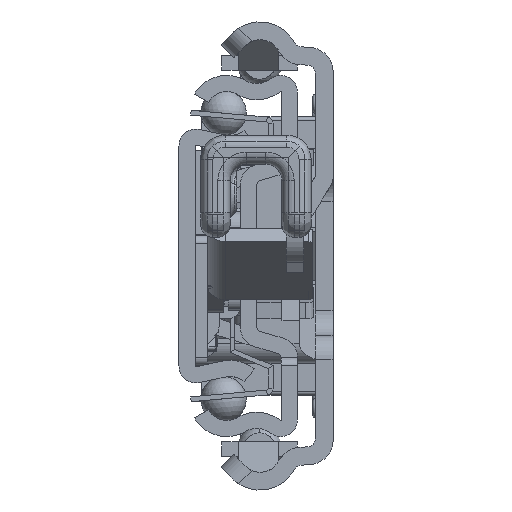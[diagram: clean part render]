
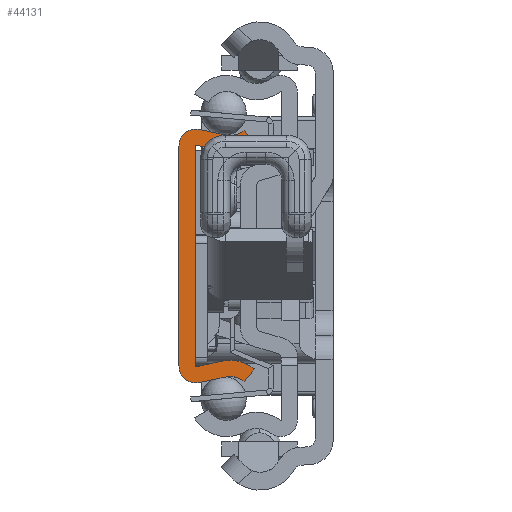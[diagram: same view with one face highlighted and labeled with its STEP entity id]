
A CAD part, left-side view. The second image highlights one B-rep face of the part: STEP entity #44131.
In plain terms, the highlighted planar face has unit normal (-1, 0, 0).
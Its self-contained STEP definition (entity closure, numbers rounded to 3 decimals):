
#39547=CARTESIAN_POINT('',(0.,-6.29,-17.65));
#39548=DIRECTION('',(-1.,0.,0.));
#39549=DIRECTION('',(0.,-0.629,0.778));
#39550=AXIS2_PLACEMENT_3D('',#39547,#39548,#39549);
#39552=DIRECTION('',(0.,0.977,-0.213));
#39553=VECTOR('',#39552,3.218);
#39554=CARTESIAN_POINT('',(0.,-5.692,-14.915));
#39555=LINE('',#39554,#39553);
#39556=CARTESIAN_POINT('',(0.,-2.1,-13.55));
#39557=DIRECTION('',(1.,0.,0.));
#39558=DIRECTION('',(0.,-0.213,-0.977));
#39559=AXIS2_PLACEMENT_3D('',#39556,#39557,#39558);
#39561=DIRECTION('',(0.,0.,1.));
#39562=VECTOR('',#39561,27.1);
#39563=CARTESIAN_POINT('',(0.,0.,-13.55));
#39564=LINE('',#39563,#39562);
#39565=CARTESIAN_POINT('',(0.,-2.1,13.55));
#39566=DIRECTION('',(1.,0.,0.));
#39567=DIRECTION('',(0.,1.,0.));
#39568=AXIS2_PLACEMENT_3D('',#39565,#39566,#39567);
#39570=DIRECTION('',(0.,-0.977,-0.213));
#39571=VECTOR('',#39570,3.218);
#39572=CARTESIAN_POINT('',(0.,-2.548,15.602));
#39573=LINE('',#39572,#39571);
#39574=CARTESIAN_POINT('',(0.,-6.29,17.65));
#39575=DIRECTION('',(-1.,0.,0.));
#39576=DIRECTION('',(0.,0.213,-0.977));
#39577=AXIS2_PLACEMENT_3D('',#39574,#39575,#39576);
#39579=DIRECTION('',(0.,-0.629,-0.778));
#39580=VECTOR('',#39579,2.);
#39581=CARTESIAN_POINT('',(0.,-8.05,15.472));
#39582=LINE('',#39581,#39580);
#39583=CARTESIAN_POINT('',(0.,-6.29,17.65));
#39584=DIRECTION('',(1.,0.,0.));
#39585=DIRECTION('',(0.,-0.629,-0.778));
#39586=AXIS2_PLACEMENT_3D('',#39583,#39584,#39585);
#39588=DIRECTION('',(0.,0.977,0.213));
#39589=VECTOR('',#39588,3.218);
#39590=CARTESIAN_POINT('',(0.,-5.265,12.961));
#39591=LINE('',#39590,#39589);
#39592=CARTESIAN_POINT('',(0.,-2.1,13.55));
#39593=DIRECTION('',(-1.,0.,0.));
#39594=DIRECTION('',(0.,-0.213,0.977));
#39595=AXIS2_PLACEMENT_3D('',#39592,#39593,#39594);
#39597=DIRECTION('',(0.,0.,-1.));
#39598=VECTOR('',#39597,27.1);
#39599=CARTESIAN_POINT('',(0.,-2.,13.55));
#39600=LINE('',#39599,#39598);
#39601=CARTESIAN_POINT('',(0.,-2.1,-13.55));
#39602=DIRECTION('',(-1.,0.,0.));
#39603=DIRECTION('',(0.,1.,0.));
#39604=AXIS2_PLACEMENT_3D('',#39601,#39602,#39603);
#39606=DIRECTION('',(0.,-0.977,0.213));
#39607=VECTOR('',#39606,3.218);
#39608=CARTESIAN_POINT('',(0.,-2.121,-13.648));
#39609=LINE('',#39608,#39607);
#39610=CARTESIAN_POINT('',(0.,-6.29,-17.65));
#39611=DIRECTION('',(1.,0.,0.));
#39612=DIRECTION('',(0.,0.213,0.977));
#39613=AXIS2_PLACEMENT_3D('',#39610,#39611,#39612);
#39615=DIRECTION('',(0.,0.629,-0.778));
#39616=VECTOR('',#39615,2.);
#39617=CARTESIAN_POINT('',(0.,-9.307,-13.917));
#39618=LINE('',#39617,#39616);
#43262=CARTESIAN_POINT('',(0.,-8.05,-15.472));
#43263=CARTESIAN_POINT('',(0.,-5.692,-14.915));
#43264=VERTEX_POINT('',#43262);
#43265=VERTEX_POINT('',#43263);
#43266=CARTESIAN_POINT('',(0.,-2.548,-15.602));
#43267=VERTEX_POINT('',#43266);
#43268=CARTESIAN_POINT('',(0.,0.,-13.55));
#43269=VERTEX_POINT('',#43268);
#43270=CARTESIAN_POINT('',(0.,0.,13.55));
#43271=VERTEX_POINT('',#43270);
#43272=CARTESIAN_POINT('',(0.,-2.548,15.602));
#43273=VERTEX_POINT('',#43272);
#43274=CARTESIAN_POINT('',(0.,-5.692,14.915));
#43275=VERTEX_POINT('',#43274);
#43276=CARTESIAN_POINT('',(0.,-8.05,15.472));
#43277=VERTEX_POINT('',#43276);
#43278=CARTESIAN_POINT('',(0.,-9.307,13.917));
#43279=VERTEX_POINT('',#43278);
#43280=CARTESIAN_POINT('',(0.,-5.265,12.961));
#43281=VERTEX_POINT('',#43280);
#43282=CARTESIAN_POINT('',(0.,-2.121,13.648));
#43283=VERTEX_POINT('',#43282);
#43284=CARTESIAN_POINT('',(0.,-2.,13.55));
#43285=VERTEX_POINT('',#43284);
#43286=CARTESIAN_POINT('',(0.,-2.,-13.55));
#43287=VERTEX_POINT('',#43286);
#43288=CARTESIAN_POINT('',(0.,-2.121,-13.648));
#43289=VERTEX_POINT('',#43288);
#43290=CARTESIAN_POINT('',(0.,-5.265,-12.961));
#43291=VERTEX_POINT('',#43290);
#43292=CARTESIAN_POINT('',(0.,-9.307,-13.917));
#43293=VERTEX_POINT('',#43292);
#44092=CARTESIAN_POINT('',(0.,0.,0.));
#44093=DIRECTION('',(1.,0.,0.));
#44094=DIRECTION('',(0.,-1.,0.));
#44095=AXIS2_PLACEMENT_3D('',#44092,#44093,#44094);
#44096=PLANE('',#44095);
#44098=ORIENTED_EDGE('',*,*,#44097,.T.);
#44100=ORIENTED_EDGE('',*,*,#44099,.T.);
#44102=ORIENTED_EDGE('',*,*,#44101,.T.);
#44104=ORIENTED_EDGE('',*,*,#44103,.T.);
#44106=ORIENTED_EDGE('',*,*,#44105,.T.);
#44108=ORIENTED_EDGE('',*,*,#44107,.T.);
#44110=ORIENTED_EDGE('',*,*,#44109,.T.);
#44112=ORIENTED_EDGE('',*,*,#44111,.T.);
#44114=ORIENTED_EDGE('',*,*,#44113,.T.);
#44116=ORIENTED_EDGE('',*,*,#44115,.T.);
#44118=ORIENTED_EDGE('',*,*,#44117,.T.);
#44120=ORIENTED_EDGE('',*,*,#44119,.T.);
#44122=ORIENTED_EDGE('',*,*,#44121,.T.);
#44124=ORIENTED_EDGE('',*,*,#44123,.T.);
#44126=ORIENTED_EDGE('',*,*,#44125,.T.);
#44128=ORIENTED_EDGE('',*,*,#44127,.T.);
#44129=EDGE_LOOP('',(#44098,#44100,#44102,#44104,#44106,#44108,#44110,#44112,
#44114,#44116,#44118,#44120,#44122,#44124,#44126,#44128));
#44130=FACE_OUTER_BOUND('',#44129,.F.);
#39551=CIRCLE('',#39550,2.8);
#39560=CIRCLE('',#39559,2.1);
#39569=CIRCLE('',#39568,2.1);
#39578=CIRCLE('',#39577,2.8);
#39587=CIRCLE('',#39586,4.8);
#39596=CIRCLE('',#39595,0.1);
#39605=CIRCLE('',#39604,0.1);
#39614=CIRCLE('',#39613,4.8);
#44097=EDGE_CURVE('',#43264,#43265,#39551,.T.);
#44099=EDGE_CURVE('',#43265,#43267,#39555,.T.);
#44101=EDGE_CURVE('',#43267,#43269,#39560,.T.);
#44103=EDGE_CURVE('',#43269,#43271,#39564,.T.);
#44105=EDGE_CURVE('',#43271,#43273,#39569,.T.);
#44107=EDGE_CURVE('',#43273,#43275,#39573,.T.);
#44109=EDGE_CURVE('',#43275,#43277,#39578,.T.);
#44111=EDGE_CURVE('',#43277,#43279,#39582,.T.);
#44113=EDGE_CURVE('',#43279,#43281,#39587,.T.);
#44115=EDGE_CURVE('',#43281,#43283,#39591,.T.);
#44117=EDGE_CURVE('',#43283,#43285,#39596,.T.);
#44119=EDGE_CURVE('',#43285,#43287,#39600,.T.);
#44121=EDGE_CURVE('',#43287,#43289,#39605,.T.);
#44123=EDGE_CURVE('',#43289,#43291,#39609,.T.);
#44125=EDGE_CURVE('',#43291,#43293,#39614,.T.);
#44127=EDGE_CURVE('',#43293,#43264,#39618,.T.);
#44131=ADVANCED_FACE('',(#44130),#44096,.F.);
